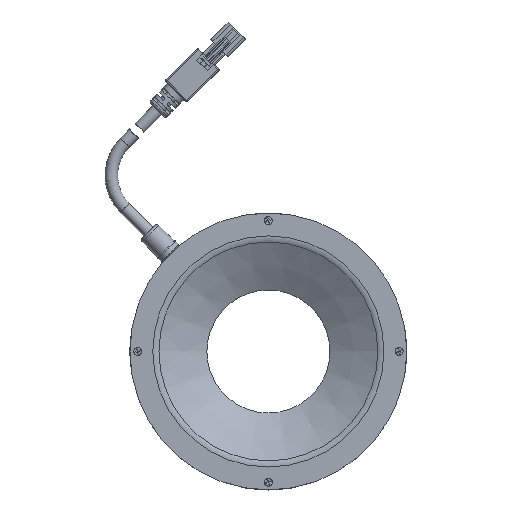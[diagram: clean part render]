
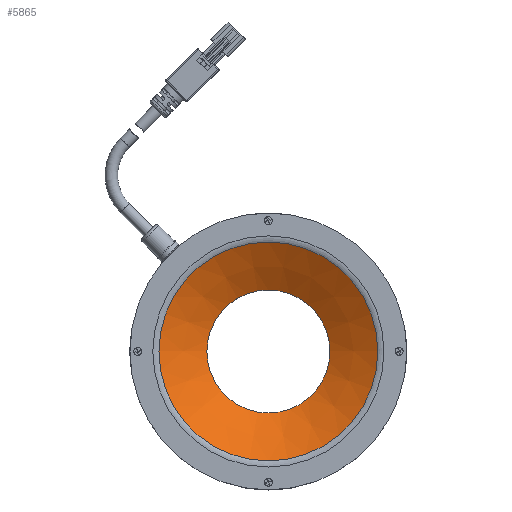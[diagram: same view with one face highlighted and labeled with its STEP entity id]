
A CAD part, top view. The second image highlights one B-rep face of the part: STEP entity #5865.
In plain terms, the highlighted conical face has half-angle 60 degrees and reference radius 36.5 mm.
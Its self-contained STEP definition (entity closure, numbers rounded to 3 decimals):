
#11 = ORIENTED_EDGE ( 'NONE', *, *, #13324, .F. ) ;
#305 = EDGE_LOOP ( 'NONE', ( #8508 ) ) ;
#435 = CARTESIAN_POINT ( 'NONE',  ( 0., 0., 22. ) ) ;
#623 = AXIS2_PLACEMENT_3D ( 'NONE', #14552, #5341, #8016 ) ;
#1893 = AXIS2_PLACEMENT_3D ( 'NONE', #2101, #14304, #7616 ) ;
#2101 = CARTESIAN_POINT ( 'NONE',  ( 0., 0., 12.474 ) ) ;
#2759 = EDGE_CURVE ( 'NONE', #6151, #6151, #9808, .T. ) ;
#5341 = DIRECTION ( 'NONE',  ( 0., 0., 1. ) ) ;
#5865 = ADVANCED_FACE ( 'NONE', ( #10338, #6272 ), #10527, .F. ) ;
#5984 = DIRECTION ( 'NONE',  ( 0., 0., 1. ) ) ;
#6025 = DIRECTION ( 'NONE',  ( -1., 0., 0. ) ) ;
#6151 = VERTEX_POINT ( 'NONE', #12837 ) ;
#6272 = FACE_BOUND ( 'NONE', #13390, .T. ) ;
#6327 = CIRCLE ( 'NONE', #1893, 20. ) ;
#7616 = DIRECTION ( 'NONE',  ( -1., 0., 0. ) ) ;
#8016 = DIRECTION ( 'NONE',  ( 1., 0., 0. ) ) ;
#8508 = ORIENTED_EDGE ( 'NONE', *, *, #2759, .T. ) ;
#9123 = VERTEX_POINT ( 'NONE', #9586 ) ;
#9586 = CARTESIAN_POINT ( 'NONE',  ( -20., 0., 12.474 ) ) ;
#9808 = CIRCLE ( 'NONE', #623, 35.572 ) ;
#10338 = FACE_OUTER_BOUND ( 'NONE', #305, .T. ) ;
#10527 = CONICAL_SURFACE ( 'NONE', #13245, 36.5, 1.047 ) ;
#12837 = CARTESIAN_POINT ( 'NONE',  ( 35.572, 0., 21.464 ) ) ;
#13245 = AXIS2_PLACEMENT_3D ( 'NONE', #435, #5984, #6025 ) ;
#13324 = EDGE_CURVE ( 'NONE', #9123, #9123, #6327, .T. ) ;
#13390 = EDGE_LOOP ( 'NONE', ( #11 ) ) ;
#14304 = DIRECTION ( 'NONE',  ( 0., 0., 1. ) ) ;
#14552 = CARTESIAN_POINT ( 'NONE',  ( 0., 0., 21.464 ) ) ;
